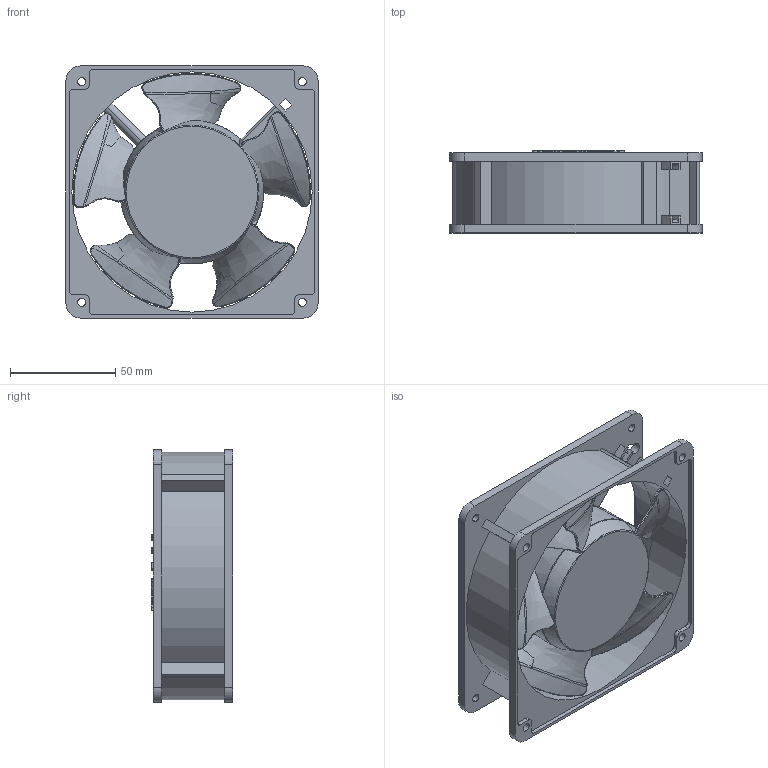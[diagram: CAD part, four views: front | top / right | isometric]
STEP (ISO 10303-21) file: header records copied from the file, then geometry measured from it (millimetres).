
FILE_DESCRIPTION((''),'2;1');
FILE_NAME('ASM0001_ASM','2016-07-14T',('Administrator'),(''),'PRO/ENGINEER BY PARAMETRIC TECHNOLOGY CORPORATION, 2009440','PRO/ENGINEER BY PARAMETRIC TECHNOLOGY CORPORATION, 2009440','');
FILE_SCHEMA(('CONFIG_CONTROL_DESIGN'));
Products named in the file (3): 38KUAN; FSTY; ASM0001_ASM
Assembly tree (2 placements, depth 2):
  ASM0001_ASM
    38KUAN
    FSTY
Bounding box: 120 x 39 x 120 mm (x, y, z)
Volume: 93905.5 mm3; surface area: 91124.4 mm2
Topology: 2 solids, 2 shells, 1439 faces, 4040 edges, 2649 vertices
Faces by surface type: plane 1087, bspline 195, cylinder 108, cone 30, extrusion 10, torus 9
Entity records: 61874 total; most frequent: CARTESIAN_POINT 26351, ORIENTED_EDGE 8060, DIRECTION 6158, EDGE_CURVE 4030, VECTOR 3168, LINE 3158, VERTEX_POINT 2649, EDGE_LOOP 1525
